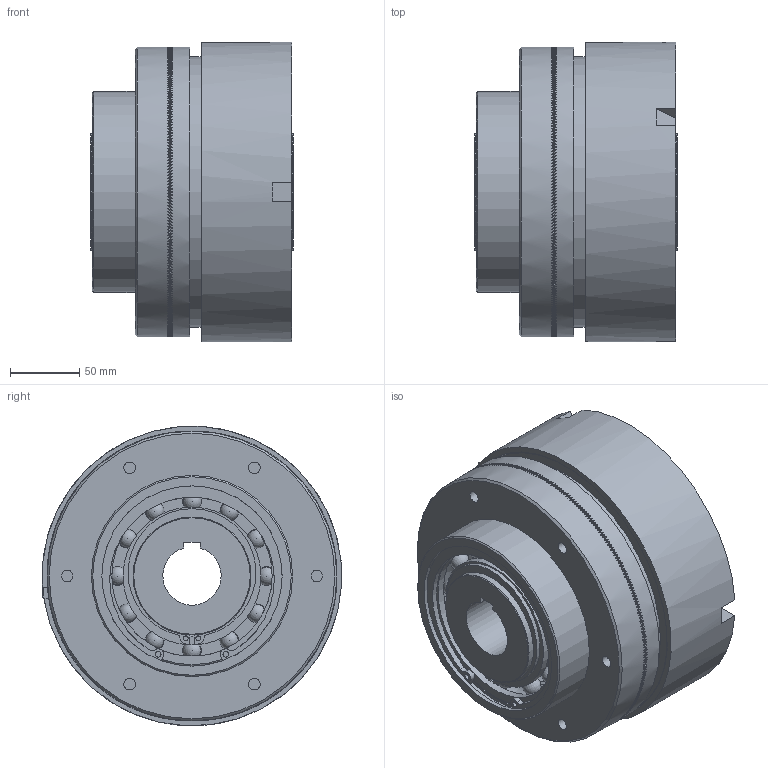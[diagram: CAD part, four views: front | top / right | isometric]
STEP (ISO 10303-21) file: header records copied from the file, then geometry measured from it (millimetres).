
FILE_DESCRIPTION(/* description */ (''),/* implementation_level */ '2;1');
FILE_NAME(/* name */ 'X:\INVENTOR\DISEGNI\03_Friz_Oleod_Pneum_Cil_Stat\03_20 DPR\03_20_07_01 DPR07\03_20_07_01 DPR07-F42@STEP.stp',/* time_stamp */ '2017-10-12T15:48:35+02:00',/* author */ ('stefano'),/* organization */ (''),/* preprocessor_version */ 'ST-DEVELOPER v16.1',/* originating_system */ 'Autodesk Inventor 2016',/* authorisation */ '');
FILE_SCHEMA (('CONFIG_CONTROL_DESIGN'));
Products named in the file (1): 03_20_07_01 DPR07_Substitute_1
Bounding box: 146 x 216 x 215.89 mm (x, y, z)
Volume: 3438071.7 mm3; surface area: 554471.3 mm2
Topology: 1 solids, 1 shells, 3383 faces, 10391 edges, 6908 vertices
Faces by surface type: plane 2515, cylinder 472, torus 323, sphere 61, cone 12
Full cylindrical faces by diameter (mm): 3.5 x4, 4 x2, 6.5 x1, 7 x1, 7.5 x4, 8.376 x6, 11.445 x1, 81.5 x2, 85 x4, 96 x1, 99.4 x8, 115.6 x8, 119 x1, 120 x3, 130 x4, 132 x1, 134 x1, 139.2 x2, 140 x1, 145 x1, 160.8 x2, 166 x1, 170 x1, 178 x1, 180 x1, 181 x1, 194 x2, 195 x1, 200 x1, 206 x1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
Entity records: 135018 total; most frequent: CARTESIAN_POINT 35869, DIRECTION 22188, ORIENTED_EDGE 20146, EDGE_CURVE 10071, AXIS2_PLACEMENT_3D 9619, VERTEX_POINT 6740, ELLIPSE 3603, EDGE_LOOP 3593
